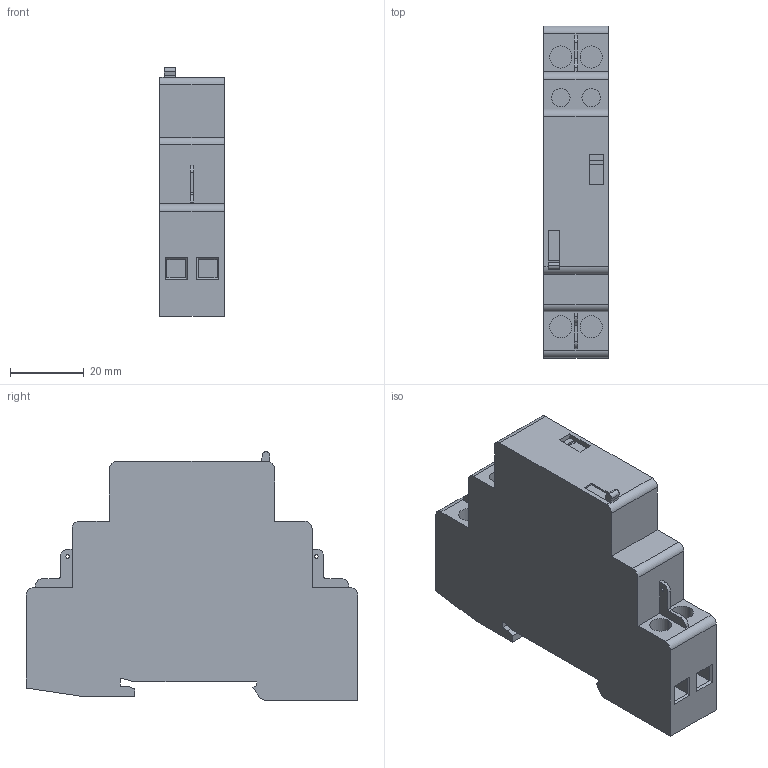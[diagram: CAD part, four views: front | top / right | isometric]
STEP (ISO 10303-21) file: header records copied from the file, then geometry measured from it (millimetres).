
FILE_DESCRIPTION (( 'STEP AP214' ), '1' );
FILE_NAME ('RBC20-110_-200.STEP', '2024-04-11T06:41:39', ( '' ), ( '' ), 'SwSTEP 2.0', 'SolidWorks 2022', '' );
FILE_SCHEMA (( 'AUTOMOTIVE_DESIGN' ));
Length unit declared in the file: millimetre
Products named in the file (1): RBC20-110_-200
Bounding box: 17.6 x 90 x 67.43 mm (x, y, z)
Volume: 75117.1 mm3; surface area: 16818.7 mm2
Topology: 1 solids, 1 shells, 148 faces, 373 edges, 240 vertices
Faces by surface type: plane 117, cylinder 31
Entity records: 4558 total; most frequent: CARTESIAN_POINT 762, ORIENTED_EDGE 746, DIRECTION 735, EDGE_CURVE 373, VECTOR 309, LINE 309, VERTEX_POINT 240, AXIS2_PLACEMENT_3D 213
